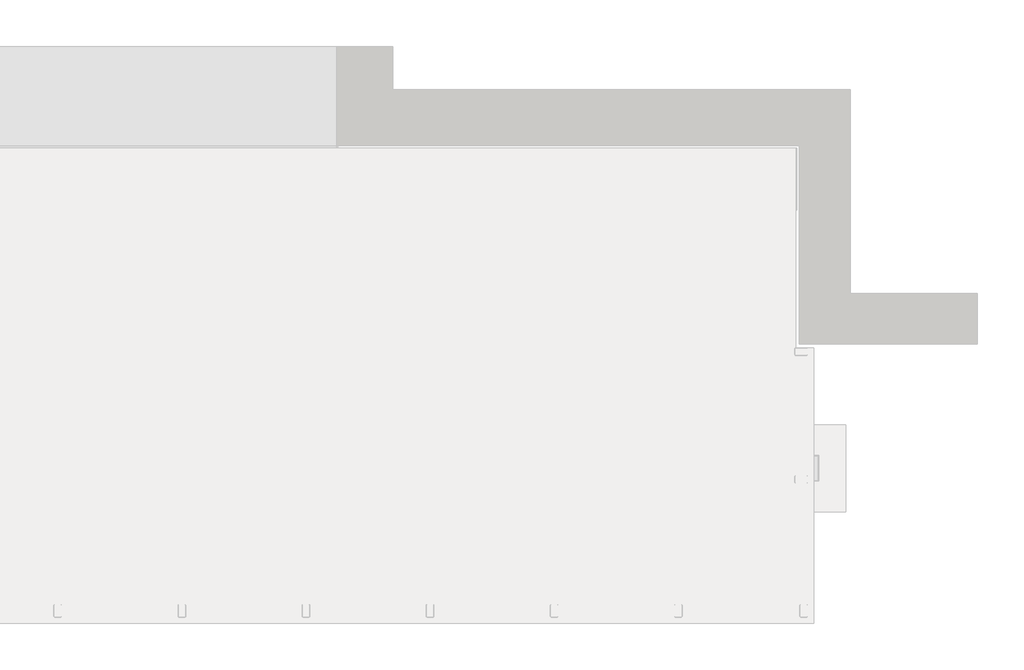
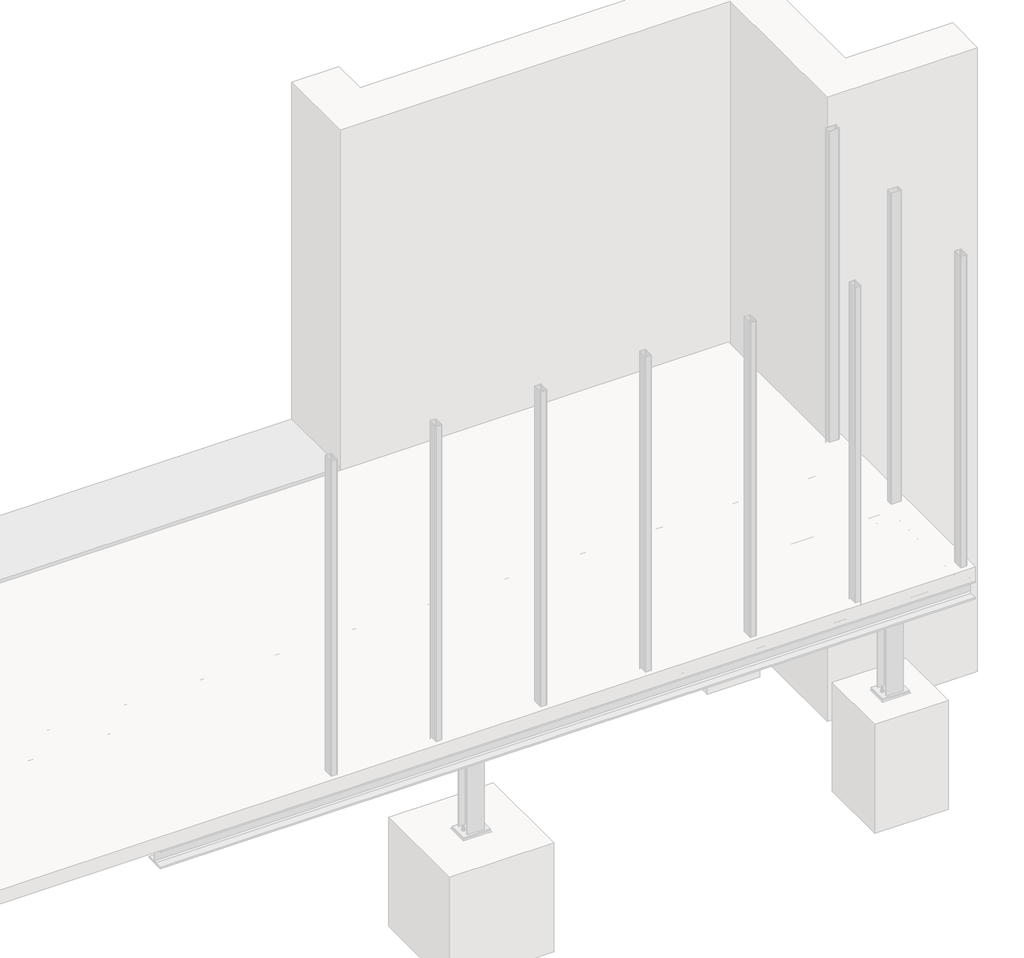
# One storey, part 33 of 36: 17 assemblies.
"""IFC4 building model written with IfcOpenShell, lengths in millimetres."""

from ifc_helpers import new_model, si_unit, point, frame, frame_2d, origin, place, context, project, spatial, polyline, circle_curve, trimmed, segment, composite_curve, outline, extrude, element, save

model = new_model("IFC4")

# Units and contexts
model_context = context("Model", 3, world=origin())
ifc_project = project(units=[si_unit("LENGTHUNIT", "METRE", prefix="MILLI")], contexts=[model_context])

# Site, building, storey
site = spatial("IfcSite", under=ifc_project)
building = spatial("IfcBuilding", under=site)
storey = spatial("IfcBuildingStorey", under=building, Name="Základy", Elevation=-1200.0)

# Assemblies
placement = place(None, origin())
element("IfcElementAssembly", 1, at=placement, inside=storey, context=model_context, shape_type="SweptSolid", body=[
    extrude(outline(composite_curve([segment(polyline([(1170.0, -160.0), (1350.0, -160.0), (1350.0, -174.0), (1279.25, -174.0)]), True, "CONTINUOUS"), segment(trimmed(circle_curve(frame_2d((1279.25, -189.0)), 15.0), [point((1279.25, -174.0))], [point((1264.25, -189.0))], True, "CARTESIAN"), True, "CONTINUOUS"), segment(polyline([(1264.25, -189.0), (1264.25, -311.0)]), True, "CONTINUOUS"), segment(trimmed(circle_curve(frame_2d((1279.25, -311.0)), 15.0), [point((1264.25, -311.0))], [point((1279.25, -326.0))], True, "CARTESIAN"), True, "CONTINUOUS"), segment(polyline([(1279.25, -326.0), (1350.0, -326.0), (1350.0, -340.0), (1170.0, -340.0), (1170.0, -326.0), (1240.75, -326.0)]), True, "CONTINUOUS"), segment(trimmed(circle_curve(frame_2d((1240.75, -311.0)), 15.0), [point((1240.75, -326.0))], [point((1255.75, -311.0))], True, "CARTESIAN"), True, "CONTINUOUS"), segment(polyline([(1255.75, -311.0), (1255.75, -189.0)]), True, "CONTINUOUS"), segment(trimmed(circle_curve(frame_2d((1240.75, -189.0)), 15.0), [point((1255.75, -189.0))], [point((1240.75, -174.0))], True, "CARTESIAN"), True, "CONTINUOUS"), segment(polyline([(1240.75, -174.0), (1170.0, -174.0), (1170.0, -160.0)]), True, "CONTINUOUS")], self_intersect=False)), frame((12160.0, 0.0, 0.0), z_axis=(1.0, 0.0, 0.0), x_axis=(0.0, 1.0, 0.0)), (0.0, 0.0, 1.0), 3780.0),
    extrude(outline(polyline([(12150.0, 1170.0), (12150.0, 1350.0), (12160.0, 1350.0), (12160.0, 1170.0), (12150.0, 1170.0)])), frame((0.0, 0.0, -326.0), z_axis=(0.0, 0.0, 1.0), x_axis=(1.0, 0.0, 0.0)), (0.0, 0.0, 1.0), 152.0),
    extrude(outline(polyline([(15940.0, 1170.0), (15940.0, 1350.0), (15950.0, 1350.0), (15950.0, 1170.0), (15940.0, 1170.0)])), frame((0.0, 0.0, -326.0), z_axis=(0.0, 0.0, 1.0), x_axis=(1.0, 0.0, 0.0)), (0.0, 0.0, 1.0), 152.0),
    extrude(outline(composite_curve([segment(polyline([(1170.0, -174.0), (1235.75, -174.0)]), True, "CONTINUOUS"), segment(trimmed(circle_curve(frame_2d((1255.75, -174.0)), 20.0), [point((1235.75, -174.0))], [point((1255.75, -194.0))], True, "CARTESIAN"), True, "CONTINUOUS"), segment(polyline([(1255.75, -194.0), (1255.75, -306.0)]), True, "CONTINUOUS"), segment(trimmed(circle_curve(frame_2d((1255.75, -326.0)), 20.0), [point((1255.75, -306.0))], [point((1235.75, -326.0))], True, "CARTESIAN"), True, "CONTINUOUS"), segment(polyline([(1235.75, -326.0), (1170.0, -326.0), (1170.0, -174.0)]), True, "CONTINUOUS")], self_intersect=False)), frame((14046.0, 0.0, 0.0), z_axis=(1.0, 0.0, 0.0), x_axis=(0.0, 1.0, 0.0)), (0.0, 0.0, 1.0), 8.0),
    extrude(outline(polyline([(13985.0, 1170.0), (14115.0, 1170.0), (14115.0, 1160.0), (13985.0, 1160.0), (13985.0, 1170.0)])), frame((0.0, 0.0, -332.0), z_axis=(0.0, 0.0, 1.0), x_axis=(1.0, 0.0, 0.0)), (0.0, 0.0, 1.0), 164.0),
    extrude(outline(composite_curve([segment(polyline([(1350.0, -174.0), (1350.0, -326.0), (1284.25, -326.0)]), True, "CONTINUOUS"), segment(trimmed(circle_curve(frame_2d((1264.25, -326.0)), 20.0), [point((1284.25, -326.0))], [point((1264.25, -306.0))], True, "CARTESIAN"), True, "CONTINUOUS"), segment(polyline([(1264.25, -306.0), (1264.25, -194.0)]), True, "CONTINUOUS"), segment(trimmed(circle_curve(frame_2d((1264.25, -174.0)), 20.0), [point((1264.25, -194.0))], [point((1284.25, -174.0))], True, "CARTESIAN"), True, "CONTINUOUS"), segment(polyline([(1284.25, -174.0), (1350.0, -174.0)]), True, "CONTINUOUS")], self_intersect=False)), frame((14046.0, 0.0, 0.0), z_axis=(1.0, 0.0, 0.0), x_axis=(0.0, 1.0, 0.0)), (0.0, 0.0, 1.0), 8.0),
    extrude(outline(polyline([(13985.0, 1360.0), (14115.0, 1360.0), (14115.0, 1350.0), (13985.0, 1350.0), (13985.0, 1360.0)])), frame((0.0, 0.0, -332.0), z_axis=(0.0, 0.0, 1.0), x_axis=(1.0, 0.0, 0.0)), (0.0, 0.0, 1.0), 164.0),
    extrude(outline(composite_curve([segment(trimmed(circle_curve(frame_2d((-290.0, 14015.0)), 9.0), [point((-290.0, 14024.0))], [point((-290.0, 14006.0))], False, "CARTESIAN"), True, "CONTINUOUS"), segment(trimmed(circle_curve(frame_2d((-290.0, 14015.0)), 9.0), [point((-290.0, 14006.0))], [point((-290.0, 14024.0))], False, "CARTESIAN"), True, "CONTINUOUS")], self_intersect=False)), frame((0.0, 1159.9, 0.0), z_axis=(0.0, 1.0, 0.0), x_axis=(0.0, 0.0, 1.0)), (0.0, 0.0, 1.0), 10.0),
    extrude(outline(polyline([(-290.0, 14028.8564065), (-278.0, 14021.9282032), (-278.0, 14008.0717968), (-290.0, 14001.1435935), (-302.0, 14008.0717968), (-302.0, 14021.9282032), (-290.0, 14028.8564065)])), frame((0.0, 1173.0, 0.0), z_axis=(0.0, 1.0, 0.0), x_axis=(0.0, 0.0, 1.0)), (0.0, 0.0, 1.0), 10.0),
    extrude(outline(composite_curve([segment(trimmed(circle_curve(frame_2d((-290.0, 14015.0)), 8.0), [point((-290.0, 14023.0))], [point((-290.0, 14007.0))], False, "CARTESIAN"), True, "CONTINUOUS"), segment(trimmed(circle_curve(frame_2d((-290.0, 14015.0)), 8.0), [point((-290.0, 14007.0))], [point((-290.0, 14023.0))], False, "CARTESIAN"), True, "CONTINUOUS")], self_intersect=False)), frame((0.0, 1123.0, 0.0), z_axis=(0.0, 1.0, 0.0), x_axis=(0.0, 0.0, 1.0)), (0.0, 0.0, 1.0), 50.0),
    extrude(outline(composite_curve([segment(trimmed(circle_curve(frame_2d((-290.0, 14015.0)), 15.0), [point((-290.0, 14030.0))], [point((-290.0, 14000.0))], False, "CARTESIAN"), True, "CONTINUOUS"), segment(trimmed(circle_curve(frame_2d((-290.0, 14015.0)), 15.0), [point((-290.0, 14000.0))], [point((-290.0, 14030.0))], False, "CARTESIAN"), True, "CONTINUOUS")], self_intersect=False)), frame((0.0, 1170.0, 0.0), z_axis=(0.0, 1.0, 0.0), x_axis=(0.0, 0.0, 1.0)), (0.0, 0.0, 1.0), 3.0),
    extrude(outline(composite_curve([segment(trimmed(circle_curve(frame_2d((-290.0, 14015.0)), 15.0), [point((-290.0, 14030.0))], [point((-290.0, 14000.0))], False, "CARTESIAN"), True, "CONTINUOUS"), segment(trimmed(circle_curve(frame_2d((-290.0, 14015.0)), 15.0), [point((-290.0, 14000.0))], [point((-290.0, 14030.0))], False, "CARTESIAN"), True, "CONTINUOUS")], self_intersect=False)), frame((0.0, 1147.0, 0.0), z_axis=(0.0, 1.0, 0.0), x_axis=(0.0, 0.0, 1.0)), (0.0, 0.0, 1.0), 3.0),
    extrude(outline(polyline([(-290.0, 14030.4441197), (-276.625, 14022.7220599), (-276.625, 14007.2779401), (-290.0, 13999.5558803), (-303.375, 14007.2779401), (-303.375, 14022.7220599), (-290.0, 14030.4441197)])), frame((0.0, 1134.0, 0.0), z_axis=(0.0, 1.0, 0.0), x_axis=(0.0, 0.0, 1.0)), (0.0, 0.0, 1.0), 13.0),
    extrude(outline(composite_curve([segment(trimmed(circle_curve(frame_2d((-290.0, 14015.0)), 9.0), [point((-290.0, 14024.0))], [point((-290.0, 14006.0))], False, "CARTESIAN"), True, "CONTINUOUS"), segment(trimmed(circle_curve(frame_2d((-290.0, 14015.0)), 9.0), [point((-290.0, 14006.0))], [point((-290.0, 14024.0))], False, "CARTESIAN"), True, "CONTINUOUS")], self_intersect=False)), frame((0.0, 1150.0, 0.0), z_axis=(0.0, 1.0, 0.0), x_axis=(0.0, 0.0, 1.0)), (0.0, 0.0, 1.0), 10.1),
    extrude(outline(composite_curve([segment(trimmed(circle_curve(frame_2d((-290.0, 14085.0)), 9.0), [point((-290.0, 14094.0))], [point((-290.0, 14076.0))], False, "CARTESIAN"), True, "CONTINUOUS"), segment(trimmed(circle_curve(frame_2d((-290.0, 14085.0)), 9.0), [point((-290.0, 14076.0))], [point((-290.0, 14094.0))], False, "CARTESIAN"), True, "CONTINUOUS")], self_intersect=False)), frame((0.0, 1159.9, 0.0), z_axis=(0.0, 1.0, 0.0), x_axis=(0.0, 0.0, 1.0)), (0.0, 0.0, 1.0), 10.0),
    extrude(outline(polyline([(-290.0, 14098.8564065), (-278.0, 14091.9282032), (-278.0, 14078.0717968), (-290.0, 14071.1435935), (-302.0, 14078.0717968), (-302.0, 14091.9282032), (-290.0, 14098.8564065)])), frame((0.0, 1173.0, 0.0), z_axis=(0.0, 1.0, 0.0), x_axis=(0.0, 0.0, 1.0)), (0.0, 0.0, 1.0), 10.0),
    extrude(outline(composite_curve([segment(trimmed(circle_curve(frame_2d((-290.0, 14085.0)), 8.0), [point((-290.0, 14093.0))], [point((-290.0, 14077.0))], False, "CARTESIAN"), True, "CONTINUOUS"), segment(trimmed(circle_curve(frame_2d((-290.0, 14085.0)), 8.0), [point((-290.0, 14077.0))], [point((-290.0, 14093.0))], False, "CARTESIAN"), True, "CONTINUOUS")], self_intersect=False)), frame((0.0, 1123.0, 0.0), z_axis=(0.0, 1.0, 0.0), x_axis=(0.0, 0.0, 1.0)), (0.0, 0.0, 1.0), 50.0),
    extrude(outline(composite_curve([segment(trimmed(circle_curve(frame_2d((-290.0, 14085.0)), 15.0), [point((-290.0, 14100.0))], [point((-290.0, 14070.0))], False, "CARTESIAN"), True, "CONTINUOUS"), segment(trimmed(circle_curve(frame_2d((-290.0, 14085.0)), 15.0), [point((-290.0, 14070.0))], [point((-290.0, 14100.0))], False, "CARTESIAN"), True, "CONTINUOUS")], self_intersect=False)), frame((0.0, 1170.0, 0.0), z_axis=(0.0, 1.0, 0.0), x_axis=(0.0, 0.0, 1.0)), (0.0, 0.0, 1.0), 3.0),
    extrude(outline(composite_curve([segment(trimmed(circle_curve(frame_2d((-290.0, 14085.0)), 15.0), [point((-290.0, 14100.0))], [point((-290.0, 14070.0))], False, "CARTESIAN"), True, "CONTINUOUS"), segment(trimmed(circle_curve(frame_2d((-290.0, 14085.0)), 15.0), [point((-290.0, 14070.0))], [point((-290.0, 14100.0))], False, "CARTESIAN"), True, "CONTINUOUS")], self_intersect=False)), frame((0.0, 1147.0, 0.0), z_axis=(0.0, 1.0, 0.0), x_axis=(0.0, 0.0, 1.0)), (0.0, 0.0, 1.0), 3.0),
    extrude(outline(polyline([(-290.0, 14100.4441197), (-276.625, 14092.7220599), (-276.625, 14077.2779401), (-290.0, 14069.5558803), (-303.375, 14077.2779401), (-303.375, 14092.7220599), (-290.0, 14100.4441197)])), frame((0.0, 1134.0, 0.0), z_axis=(0.0, 1.0, 0.0), x_axis=(0.0, 0.0, 1.0)), (0.0, 0.0, 1.0), 13.0),
    extrude(outline(composite_curve([segment(trimmed(circle_curve(frame_2d((-290.0, 14085.0)), 9.0), [point((-290.0, 14094.0))], [point((-290.0, 14076.0))], False, "CARTESIAN"), True, "CONTINUOUS"), segment(trimmed(circle_curve(frame_2d((-290.0, 14085.0)), 9.0), [point((-290.0, 14076.0))], [point((-290.0, 14094.0))], False, "CARTESIAN"), True, "CONTINUOUS")], self_intersect=False)), frame((0.0, 1150.0, 0.0), z_axis=(0.0, 1.0, 0.0), x_axis=(0.0, 0.0, 1.0)), (0.0, 0.0, 1.0), 10.1),
    extrude(outline(composite_curve([segment(trimmed(circle_curve(frame_2d((-210.0, 14015.0)), 9.0), [point((-210.0, 14024.0))], [point((-210.0, 14006.0))], False, "CARTESIAN"), True, "CONTINUOUS"), segment(trimmed(circle_curve(frame_2d((-210.0, 14015.0)), 9.0), [point((-210.0, 14006.0))], [point((-210.0, 14024.0))], False, "CARTESIAN"), True, "CONTINUOUS")], self_intersect=False)), frame((0.0, 1159.9, 0.0), z_axis=(0.0, 1.0, 0.0), x_axis=(0.0, 0.0, 1.0)), (0.0, 0.0, 1.0), 10.0),
    extrude(outline(polyline([(-210.0, 14028.8564065), (-198.0, 14021.9282032), (-198.0, 14008.0717968), (-210.0, 14001.1435935), (-222.0, 14008.0717968), (-222.0, 14021.9282032), (-210.0, 14028.8564065)])), frame((0.0, 1173.0, 0.0), z_axis=(0.0, 1.0, 0.0), x_axis=(0.0, 0.0, 1.0)), (0.0, 0.0, 1.0), 10.0),
    extrude(outline(composite_curve([segment(trimmed(circle_curve(frame_2d((-210.0, 14015.0)), 8.0), [point((-210.0, 14023.0))], [point((-210.0, 14007.0))], False, "CARTESIAN"), True, "CONTINUOUS"), segment(trimmed(circle_curve(frame_2d((-210.0, 14015.0)), 8.0), [point((-210.0, 14007.0))], [point((-210.0, 14023.0))], False, "CARTESIAN"), True, "CONTINUOUS")], self_intersect=False)), frame((0.0, 1123.0, 0.0), z_axis=(0.0, 1.0, 0.0), x_axis=(0.0, 0.0, 1.0)), (0.0, 0.0, 1.0), 50.0),
    extrude(outline(composite_curve([segment(trimmed(circle_curve(frame_2d((-210.0, 14015.0)), 15.0), [point((-210.0, 14030.0))], [point((-210.0, 14000.0))], False, "CARTESIAN"), True, "CONTINUOUS"), segment(trimmed(circle_curve(frame_2d((-210.0, 14015.0)), 15.0), [point((-210.0, 14000.0))], [point((-210.0, 14030.0))], False, "CARTESIAN"), True, "CONTINUOUS")], self_intersect=False)), frame((0.0, 1170.0, 0.0), z_axis=(0.0, 1.0, 0.0), x_axis=(0.0, 0.0, 1.0)), (0.0, 0.0, 1.0), 3.0),
    extrude(outline(composite_curve([segment(trimmed(circle_curve(frame_2d((-210.0, 14015.0)), 15.0), [point((-210.0, 14030.0))], [point((-210.0, 14000.0))], False, "CARTESIAN"), True, "CONTINUOUS"), segment(trimmed(circle_curve(frame_2d((-210.0, 14015.0)), 15.0), [point((-210.0, 14000.0))], [point((-210.0, 14030.0))], False, "CARTESIAN"), True, "CONTINUOUS")], self_intersect=False)), frame((0.0, 1147.0, 0.0), z_axis=(0.0, 1.0, 0.0), x_axis=(0.0, 0.0, 1.0)), (0.0, 0.0, 1.0), 3.0),
    extrude(outline(polyline([(-210.0, 14030.4441197), (-196.625, 14022.7220599), (-196.625, 14007.2779401), (-210.0, 13999.5558803), (-223.375, 14007.2779401), (-223.375, 14022.7220599), (-210.0, 14030.4441197)])), frame((0.0, 1134.0, 0.0), z_axis=(0.0, 1.0, 0.0), x_axis=(0.0, 0.0, 1.0)), (0.0, 0.0, 1.0), 13.0),
    extrude(outline(composite_curve([segment(trimmed(circle_curve(frame_2d((-210.0, 14015.0)), 9.0), [point((-210.0, 14024.0))], [point((-210.0, 14006.0))], False, "CARTESIAN"), True, "CONTINUOUS"), segment(trimmed(circle_curve(frame_2d((-210.0, 14015.0)), 9.0), [point((-210.0, 14006.0))], [point((-210.0, 14024.0))], False, "CARTESIAN"), True, "CONTINUOUS")], self_intersect=False)), frame((0.0, 1150.0, 0.0), z_axis=(0.0, 1.0, 0.0), x_axis=(0.0, 0.0, 1.0)), (0.0, 0.0, 1.0), 10.1),
    extrude(outline(composite_curve([segment(trimmed(circle_curve(frame_2d((-210.0, 14085.0)), 9.0), [point((-210.0, 14094.0))], [point((-210.0, 14076.0))], False, "CARTESIAN"), True, "CONTINUOUS"), segment(trimmed(circle_curve(frame_2d((-210.0, 14085.0)), 9.0), [point((-210.0, 14076.0))], [point((-210.0, 14094.0))], False, "CARTESIAN"), True, "CONTINUOUS")], self_intersect=False)), frame((0.0, 1159.9, 0.0), z_axis=(0.0, 1.0, 0.0), x_axis=(0.0, 0.0, 1.0)), (0.0, 0.0, 1.0), 10.0),
    extrude(outline(polyline([(-210.0, 14098.8564065), (-198.0, 14091.9282032), (-198.0, 14078.0717968), (-210.0, 14071.1435935), (-222.0, 14078.0717968), (-222.0, 14091.9282032), (-210.0, 14098.8564065)])), frame((0.0, 1173.0, 0.0), z_axis=(0.0, 1.0, 0.0), x_axis=(0.0, 0.0, 1.0)), (0.0, 0.0, 1.0), 10.0),
    extrude(outline(composite_curve([segment(trimmed(circle_curve(frame_2d((-210.0, 14085.0)), 8.0), [point((-210.0, 14093.0))], [point((-210.0, 14077.0))], False, "CARTESIAN"), True, "CONTINUOUS"), segment(trimmed(circle_curve(frame_2d((-210.0, 14085.0)), 8.0), [point((-210.0, 14077.0))], [point((-210.0, 14093.0))], False, "CARTESIAN"), True, "CONTINUOUS")], self_intersect=False)), frame((0.0, 1123.0, 0.0), z_axis=(0.0, 1.0, 0.0), x_axis=(0.0, 0.0, 1.0)), (0.0, 0.0, 1.0), 50.0),
    extrude(outline(composite_curve([segment(trimmed(circle_curve(frame_2d((-210.0, 14085.0)), 15.0), [point((-210.0, 14100.0))], [point((-210.0, 14070.0))], False, "CARTESIAN"), True, "CONTINUOUS"), segment(trimmed(circle_curve(frame_2d((-210.0, 14085.0)), 15.0), [point((-210.0, 14070.0))], [point((-210.0, 14100.0))], False, "CARTESIAN"), True, "CONTINUOUS")], self_intersect=False)), frame((0.0, 1170.0, 0.0), z_axis=(0.0, 1.0, 0.0), x_axis=(0.0, 0.0, 1.0)), (0.0, 0.0, 1.0), 3.0),
    extrude(outline(composite_curve([segment(trimmed(circle_curve(frame_2d((-210.0, 14085.0)), 15.0), [point((-210.0, 14100.0))], [point((-210.0, 14070.0))], False, "CARTESIAN"), True, "CONTINUOUS"), segment(trimmed(circle_curve(frame_2d((-210.0, 14085.0)), 15.0), [point((-210.0, 14070.0))], [point((-210.0, 14100.0))], False, "CARTESIAN"), True, "CONTINUOUS")], self_intersect=False)), frame((0.0, 1147.0, 0.0), z_axis=(0.0, 1.0, 0.0), x_axis=(0.0, 0.0, 1.0)), (0.0, 0.0, 1.0), 3.0),
    extrude(outline(polyline([(-210.0, 14100.4441197), (-196.625, 14092.7220599), (-196.625, 14077.2779401), (-210.0, 14069.5558803), (-223.375, 14077.2779401), (-223.375, 14092.7220599), (-210.0, 14100.4441197)])), frame((0.0, 1134.0, 0.0), z_axis=(0.0, 1.0, 0.0), x_axis=(0.0, 0.0, 1.0)), (0.0, 0.0, 1.0), 13.0),
    extrude(outline(composite_curve([segment(trimmed(circle_curve(frame_2d((-210.0, 14085.0)), 9.0), [point((-210.0, 14094.0))], [point((-210.0, 14076.0))], False, "CARTESIAN"), True, "CONTINUOUS"), segment(trimmed(circle_curve(frame_2d((-210.0, 14085.0)), 9.0), [point((-210.0, 14076.0))], [point((-210.0, 14094.0))], False, "CARTESIAN"), True, "CONTINUOUS")], self_intersect=False)), frame((0.0, 1150.0, 0.0), z_axis=(0.0, 1.0, 0.0), x_axis=(0.0, 0.0, 1.0)), (0.0, 0.0, 1.0), 10.1),
    extrude(outline(composite_curve([segment(trimmed(circle_curve(frame_2d((-290.0, 14015.0)), 9.0), [point((-290.0, 14024.0))], [point((-290.0, 14006.0))], False, "CARTESIAN"), True, "CONTINUOUS"), segment(trimmed(circle_curve(frame_2d((-290.0, 14015.0)), 9.0), [point((-290.0, 14006.0))], [point((-290.0, 14024.0))], False, "CARTESIAN"), True, "CONTINUOUS")], self_intersect=False)), frame((0.0, 1350.1, 0.0), z_axis=(0.0, 1.0, 0.0), x_axis=(0.0, 0.0, 1.0)), (0.0, 0.0, 1.0), 10.0),
    extrude(outline(polyline([(-290.0, 14028.8564065), (-278.0, 14021.9282032), (-278.0, 14008.0717968), (-290.0, 14001.1435935), (-302.0, 14008.0717968), (-302.0, 14021.9282032), (-290.0, 14028.8564065)])), frame((0.0, 1337.0, 0.0), z_axis=(0.0, 1.0, 0.0), x_axis=(0.0, 0.0, 1.0)), (0.0, 0.0, 1.0), 10.0),
    extrude(outline(composite_curve([segment(trimmed(circle_curve(frame_2d((-290.0, 14015.0)), 8.0), [point((-290.0, 14023.0))], [point((-290.0, 14007.0))], False, "CARTESIAN"), True, "CONTINUOUS"), segment(trimmed(circle_curve(frame_2d((-290.0, 14015.0)), 8.0), [point((-290.0, 14007.0))], [point((-290.0, 14023.0))], False, "CARTESIAN"), True, "CONTINUOUS")], self_intersect=False)), frame((0.0, 1347.0, 0.0), z_axis=(0.0, 1.0, 0.0), x_axis=(0.0, 0.0, 1.0)), (0.0, 0.0, 1.0), 50.0),
    extrude(outline(composite_curve([segment(trimmed(circle_curve(frame_2d((-290.0, 14015.0)), 15.0), [point((-290.0, 14030.0))], [point((-290.0, 14000.0))], False, "CARTESIAN"), True, "CONTINUOUS"), segment(trimmed(circle_curve(frame_2d((-290.0, 14015.0)), 15.0), [point((-290.0, 14000.0))], [point((-290.0, 14030.0))], False, "CARTESIAN"), True, "CONTINUOUS")], self_intersect=False)), frame((0.0, 1347.0, 0.0), z_axis=(0.0, 1.0, 0.0), x_axis=(0.0, 0.0, 1.0)), (0.0, 0.0, 1.0), 3.0),
    extrude(outline(composite_curve([segment(trimmed(circle_curve(frame_2d((-290.0, 14015.0)), 15.0), [point((-290.0, 14030.0))], [point((-290.0, 14000.0))], False, "CARTESIAN"), True, "CONTINUOUS"), segment(trimmed(circle_curve(frame_2d((-290.0, 14015.0)), 15.0), [point((-290.0, 14000.0))], [point((-290.0, 14030.0))], False, "CARTESIAN"), True, "CONTINUOUS")], self_intersect=False)), frame((0.0, 1370.0, 0.0), z_axis=(0.0, 1.0, 0.0), x_axis=(0.0, 0.0, 1.0)), (0.0, 0.0, 1.0), 3.0),
    extrude(outline(polyline([(-290.0, 14030.4441197), (-276.625, 14022.7220599), (-276.625, 14007.2779401), (-290.0, 13999.5558803), (-303.375, 14007.2779401), (-303.375, 14022.7220599), (-290.0, 14030.4441197)])), frame((0.0, 1373.0, 0.0), z_axis=(0.0, 1.0, 0.0), x_axis=(0.0, 0.0, 1.0)), (0.0, 0.0, 1.0), 13.0),
    extrude(outline(composite_curve([segment(trimmed(circle_curve(frame_2d((-290.0, 14015.0)), 9.0), [point((-290.0, 14024.0))], [point((-290.0, 14006.0))], False, "CARTESIAN"), True, "CONTINUOUS"), segment(trimmed(circle_curve(frame_2d((-290.0, 14015.0)), 9.0), [point((-290.0, 14006.0))], [point((-290.0, 14024.0))], False, "CARTESIAN"), True, "CONTINUOUS")], self_intersect=False)), frame((0.0, 1359.9, 0.0), z_axis=(0.0, 1.0, 0.0), x_axis=(0.0, 0.0, 1.0)), (0.0, 0.0, 1.0), 10.1),
    extrude(outline(composite_curve([segment(trimmed(circle_curve(frame_2d((-290.0, 14085.0)), 9.0), [point((-290.0, 14094.0))], [point((-290.0, 14076.0))], False, "CARTESIAN"), True, "CONTINUOUS"), segment(trimmed(circle_curve(frame_2d((-290.0, 14085.0)), 9.0), [point((-290.0, 14076.0))], [point((-290.0, 14094.0))], False, "CARTESIAN"), True, "CONTINUOUS")], self_intersect=False)), frame((0.0, 1350.1, 0.0), z_axis=(0.0, 1.0, 0.0), x_axis=(0.0, 0.0, 1.0)), (0.0, 0.0, 1.0), 10.0),
    extrude(outline(polyline([(-290.0, 14098.8564065), (-278.0, 14091.9282032), (-278.0, 14078.0717968), (-290.0, 14071.1435935), (-302.0, 14078.0717968), (-302.0, 14091.9282032), (-290.0, 14098.8564065)])), frame((0.0, 1337.0, 0.0), z_axis=(0.0, 1.0, 0.0), x_axis=(0.0, 0.0, 1.0)), (0.0, 0.0, 1.0), 10.0),
    extrude(outline(composite_curve([segment(trimmed(circle_curve(frame_2d((-290.0, 14085.0)), 8.0), [point((-290.0, 14093.0))], [point((-290.0, 14077.0))], False, "CARTESIAN"), True, "CONTINUOUS"), segment(trimmed(circle_curve(frame_2d((-290.0, 14085.0)), 8.0), [point((-290.0, 14077.0))], [point((-290.0, 14093.0))], False, "CARTESIAN"), True, "CONTINUOUS")], self_intersect=False)), frame((0.0, 1347.0, 0.0), z_axis=(0.0, 1.0, 0.0), x_axis=(0.0, 0.0, 1.0)), (0.0, 0.0, 1.0), 50.0),
    extrude(outline(composite_curve([segment(trimmed(circle_curve(frame_2d((-290.0, 14085.0)), 15.0), [point((-290.0, 14100.0))], [point((-290.0, 14070.0))], False, "CARTESIAN"), True, "CONTINUOUS"), segment(trimmed(circle_curve(frame_2d((-290.0, 14085.0)), 15.0), [point((-290.0, 14070.0))], [point((-290.0, 14100.0))], False, "CARTESIAN"), True, "CONTINUOUS")], self_intersect=False)), frame((0.0, 1347.0, 0.0), z_axis=(0.0, 1.0, 0.0), x_axis=(0.0, 0.0, 1.0)), (0.0, 0.0, 1.0), 3.0),
    extrude(outline(composite_curve([segment(trimmed(circle_curve(frame_2d((-290.0, 14085.0)), 15.0), [point((-290.0, 14100.0))], [point((-290.0, 14070.0))], False, "CARTESIAN"), True, "CONTINUOUS"), segment(trimmed(circle_curve(frame_2d((-290.0, 14085.0)), 15.0), [point((-290.0, 14070.0))], [point((-290.0, 14100.0))], False, "CARTESIAN"), True, "CONTINUOUS")], self_intersect=False)), frame((0.0, 1370.0, 0.0), z_axis=(0.0, 1.0, 0.0), x_axis=(0.0, 0.0, 1.0)), (0.0, 0.0, 1.0), 3.0),
    extrude(outline(polyline([(-290.0, 14100.4441197), (-276.625, 14092.7220599), (-276.625, 14077.2779401), (-290.0, 14069.5558803), (-303.375, 14077.2779401), (-303.375, 14092.7220599), (-290.0, 14100.4441197)])), frame((0.0, 1373.0, 0.0), z_axis=(0.0, 1.0, 0.0), x_axis=(0.0, 0.0, 1.0)), (0.0, 0.0, 1.0), 13.0),
    extrude(outline(composite_curve([segment(trimmed(circle_curve(frame_2d((-290.0, 14085.0)), 9.0), [point((-290.0, 14094.0))], [point((-290.0, 14076.0))], False, "CARTESIAN"), True, "CONTINUOUS"), segment(trimmed(circle_curve(frame_2d((-290.0, 14085.0)), 9.0), [point((-290.0, 14076.0))], [point((-290.0, 14094.0))], False, "CARTESIAN"), True, "CONTINUOUS")], self_intersect=False)), frame((0.0, 1359.9, 0.0), z_axis=(0.0, 1.0, 0.0), x_axis=(0.0, 0.0, 1.0)), (0.0, 0.0, 1.0), 10.1),
    extrude(outline(composite_curve([segment(trimmed(circle_curve(frame_2d((-210.0, 14015.0)), 9.0), [point((-210.0, 14024.0))], [point((-210.0, 14006.0))], False, "CARTESIAN"), True, "CONTINUOUS"), segment(trimmed(circle_curve(frame_2d((-210.0, 14015.0)), 9.0), [point((-210.0, 14006.0))], [point((-210.0, 14024.0))], False, "CARTESIAN"), True, "CONTINUOUS")], self_intersect=False)), frame((0.0, 1350.1, 0.0), z_axis=(0.0, 1.0, 0.0), x_axis=(0.0, 0.0, 1.0)), (0.0, 0.0, 1.0), 10.0),
    extrude(outline(polyline([(-210.0, 14028.8564065), (-198.0, 14021.9282032), (-198.0, 14008.0717968), (-210.0, 14001.1435935), (-222.0, 14008.0717968), (-222.0, 14021.9282032), (-210.0, 14028.8564065)])), frame((0.0, 1337.0, 0.0), z_axis=(0.0, 1.0, 0.0), x_axis=(0.0, 0.0, 1.0)), (0.0, 0.0, 1.0), 10.0),
    extrude(outline(composite_curve([segment(trimmed(circle_curve(frame_2d((-210.0, 14015.0)), 8.0), [point((-210.0, 14023.0))], [point((-210.0, 14007.0))], False, "CARTESIAN"), True, "CONTINUOUS"), segment(trimmed(circle_curve(frame_2d((-210.0, 14015.0)), 8.0), [point((-210.0, 14007.0))], [point((-210.0, 14023.0))], False, "CARTESIAN"), True, "CONTINUOUS")], self_intersect=False)), frame((0.0, 1347.0, 0.0), z_axis=(0.0, 1.0, 0.0), x_axis=(0.0, 0.0, 1.0)), (0.0, 0.0, 1.0), 50.0),
    extrude(outline(composite_curve([segment(trimmed(circle_curve(frame_2d((-210.0, 14015.0)), 15.0), [point((-210.0, 14030.0))], [point((-210.0, 14000.0))], False, "CARTESIAN"), True, "CONTINUOUS"), segment(trimmed(circle_curve(frame_2d((-210.0, 14015.0)), 15.0), [point((-210.0, 14000.0))], [point((-210.0, 14030.0))], False, "CARTESIAN"), True, "CONTINUOUS")], self_intersect=False)), frame((0.0, 1347.0, 0.0), z_axis=(0.0, 1.0, 0.0), x_axis=(0.0, 0.0, 1.0)), (0.0, 0.0, 1.0), 3.0),
    extrude(outline(composite_curve([segment(trimmed(circle_curve(frame_2d((-210.0, 14015.0)), 15.0), [point((-210.0, 14030.0))], [point((-210.0, 14000.0))], False, "CARTESIAN"), True, "CONTINUOUS"), segment(trimmed(circle_curve(frame_2d((-210.0, 14015.0)), 15.0), [point((-210.0, 14000.0))], [point((-210.0, 14030.0))], False, "CARTESIAN"), True, "CONTINUOUS")], self_intersect=False)), frame((0.0, 1370.0, 0.0), z_axis=(0.0, 1.0, 0.0), x_axis=(0.0, 0.0, 1.0)), (0.0, 0.0, 1.0), 3.0),
    extrude(outline(polyline([(-210.0, 14030.4441197), (-196.625, 14022.7220599), (-196.625, 14007.2779401), (-210.0, 13999.5558803), (-223.375, 14007.2779401), (-223.375, 14022.7220599), (-210.0, 14030.4441197)])), frame((0.0, 1373.0, 0.0), z_axis=(0.0, 1.0, 0.0), x_axis=(0.0, 0.0, 1.0)), (0.0, 0.0, 1.0), 13.0),
    extrude(outline(composite_curve([segment(trimmed(circle_curve(frame_2d((-210.0, 14015.0)), 9.0), [point((-210.0, 14024.0))], [point((-210.0, 14006.0))], False, "CARTESIAN"), True, "CONTINUOUS"), segment(trimmed(circle_curve(frame_2d((-210.0, 14015.0)), 9.0), [point((-210.0, 14006.0))], [point((-210.0, 14024.0))], False, "CARTESIAN"), True, "CONTINUOUS")], self_intersect=False)), frame((0.0, 1359.9, 0.0), z_axis=(0.0, 1.0, 0.0), x_axis=(0.0, 0.0, 1.0)), (0.0, 0.0, 1.0), 10.1),
    extrude(outline(composite_curve([segment(trimmed(circle_curve(frame_2d((-210.0, 14085.0)), 9.0), [point((-210.0, 14094.0))], [point((-210.0, 14076.0))], False, "CARTESIAN"), True, "CONTINUOUS"), segment(trimmed(circle_curve(frame_2d((-210.0, 14085.0)), 9.0), [point((-210.0, 14076.0))], [point((-210.0, 14094.0))], False, "CARTESIAN"), True, "CONTINUOUS")], self_intersect=False)), frame((0.0, 1350.1, 0.0), z_axis=(0.0, 1.0, 0.0), x_axis=(0.0, 0.0, 1.0)), (0.0, 0.0, 1.0), 10.0),
    extrude(outline(polyline([(-210.0, 14098.8564065), (-198.0, 14091.9282032), (-198.0, 14078.0717968), (-210.0, 14071.1435935), (-222.0, 14078.0717968), (-222.0, 14091.9282032), (-210.0, 14098.8564065)])), frame((0.0, 1337.0, 0.0), z_axis=(0.0, 1.0, 0.0), x_axis=(0.0, 0.0, 1.0)), (0.0, 0.0, 1.0), 10.0),
    extrude(outline(composite_curve([segment(trimmed(circle_curve(frame_2d((-210.0, 14085.0)), 8.0), [point((-210.0, 14093.0))], [point((-210.0, 14077.0))], False, "CARTESIAN"), True, "CONTINUOUS"), segment(trimmed(circle_curve(frame_2d((-210.0, 14085.0)), 8.0), [point((-210.0, 14077.0))], [point((-210.0, 14093.0))], False, "CARTESIAN"), True, "CONTINUOUS")], self_intersect=False)), frame((0.0, 1347.0, 0.0), z_axis=(0.0, 1.0, 0.0), x_axis=(0.0, 0.0, 1.0)), (0.0, 0.0, 1.0), 50.0),
    extrude(outline(composite_curve([segment(trimmed(circle_curve(frame_2d((-210.0, 14085.0)), 15.0), [point((-210.0, 14100.0))], [point((-210.0, 14070.0))], False, "CARTESIAN"), True, "CONTINUOUS"), segment(trimmed(circle_curve(frame_2d((-210.0, 14085.0)), 15.0), [point((-210.0, 14070.0))], [point((-210.0, 14100.0))], False, "CARTESIAN"), True, "CONTINUOUS")], self_intersect=False)), frame((0.0, 1347.0, 0.0), z_axis=(0.0, 1.0, 0.0), x_axis=(0.0, 0.0, 1.0)), (0.0, 0.0, 1.0), 3.0),
    extrude(outline(composite_curve([segment(trimmed(circle_curve(frame_2d((-210.0, 14085.0)), 15.0), [point((-210.0, 14100.0))], [point((-210.0, 14070.0))], False, "CARTESIAN"), True, "CONTINUOUS"), segment(trimmed(circle_curve(frame_2d((-210.0, 14085.0)), 15.0), [point((-210.0, 14070.0))], [point((-210.0, 14100.0))], False, "CARTESIAN"), True, "CONTINUOUS")], self_intersect=False)), frame((0.0, 1370.0, 0.0), z_axis=(0.0, 1.0, 0.0), x_axis=(0.0, 0.0, 1.0)), (0.0, 0.0, 1.0), 3.0),
    extrude(outline(polyline([(-210.0, 14100.4441197), (-196.625, 14092.7220599), (-196.625, 14077.2779401), (-210.0, 14069.5558803), (-223.375, 14077.2779401), (-223.375, 14092.7220599), (-210.0, 14100.4441197)])), frame((0.0, 1373.0, 0.0), z_axis=(0.0, 1.0, 0.0), x_axis=(0.0, 0.0, 1.0)), (0.0, 0.0, 1.0), 13.0),
    extrude(outline(composite_curve([segment(trimmed(circle_curve(frame_2d((-210.0, 14085.0)), 9.0), [point((-210.0, 14094.0))], [point((-210.0, 14076.0))], False, "CARTESIAN"), True, "CONTINUOUS"), segment(trimmed(circle_curve(frame_2d((-210.0, 14085.0)), 9.0), [point((-210.0, 14076.0))], [point((-210.0, 14094.0))], False, "CARTESIAN"), True, "CONTINUOUS")], self_intersect=False)), frame((0.0, 1359.9, 0.0), z_axis=(0.0, 1.0, 0.0), x_axis=(0.0, 0.0, 1.0)), (0.0, 0.0, 1.0), 10.1),
])
element("IfcElementAssembly", 2, at=placement, inside=storey, context=model_context, shape_type="SweptSolid", body=[
    extrude(outline(composite_curve([segment(polyline([(-340.0, 14004.5), (-340.0, 14095.5), (-332.0, 14095.5), (-332.0, 14061.6500001)]), True, "CONTINUOUS"), segment(trimmed(circle_curve(frame_2d((-323.0, 14061.6500001)), 9.0), [point((-332.0, 14061.6500001))], [point((-323.0, 14052.6500001))], True, "CARTESIAN"), True, "CONTINUOUS"), segment(polyline([(-323.0, 14052.6500001), (-177.0, 14052.6500001)]), True, "CONTINUOUS"), segment(trimmed(circle_curve(frame_2d((-177.0, 14061.6500001)), 9.0), [point((-177.0, 14052.6500001))], [point((-168.0, 14061.6500001))], True, "CARTESIAN"), True, "CONTINUOUS"), segment(polyline([(-168.0, 14061.6500001), (-168.0, 14095.5), (-160.0, 14095.5), (-160.0, 14004.5), (-168.0, 14004.5), (-168.0, 14038.3499999)]), True, "CONTINUOUS"), segment(trimmed(circle_curve(frame_2d((-177.0, 14038.3499999)), 9.0), [point((-168.0, 14038.3499999))], [point((-177.0, 14047.3499999))], True, "CARTESIAN"), True, "CONTINUOUS"), segment(polyline([(-177.0, 14047.3499999), (-323.0, 14047.3499999)]), True, "CONTINUOUS"), segment(trimmed(circle_curve(frame_2d((-323.0, 14038.3499999)), 9.0), [point((-323.0, 14047.3499999))], [point((-332.0, 14038.3499999))], True, "CARTESIAN"), True, "CONTINUOUS"), segment(polyline([(-332.0, 14038.3499999), (-332.0, 14004.5), (-340.0, 14004.5)]), True, "CONTINUOUS")], self_intersect=False)), frame((0.0, 1370.0, 0.0), z_axis=(0.0, 1.0, 0.0), x_axis=(0.0, 0.0, 1.0)), (0.0, 0.0, 1.0), 2375.0),
    extrude(outline(polyline([(13985.0, 1370.0), (14115.0, 1370.0), (14115.0, 1360.0), (13985.0, 1360.0), (13985.0, 1370.0)])), frame((0.0, 0.0, -332.0), z_axis=(0.0, 0.0, 1.0), x_axis=(1.0, 0.0, 0.0)), (0.0, 0.0, 1.0), 164.0),
    extrude(outline(polyline([(13985.0, 3755.0), (14115.0, 3755.0), (14115.0, 3745.0), (13985.0, 3745.0), (13985.0, 3755.0)])), frame((0.0, 0.0, -332.0), z_axis=(0.0, 0.0, 1.0), x_axis=(1.0, 0.0, 0.0)), (0.0, 0.0, 1.0), 164.0),
])
element("IfcElementAssembly", 3, at=placement, inside=storey, context=model_context, shape_type="SweptSolid", body=[
    extrude(outline(polyline([(3802.7875602, -160.0099992), (3772.2875602, -111.5000008), (3637.6975638, -111.5000008), (3607.1975638, -160.0000008), (3552.7875754, -160.0000008), (3522.2875754, -111.5000008), (3387.6975715, -111.5000008), (3357.1975715, -160.0000008), (3302.7875697, -160.0000008), (3272.2875716, -111.5000008), (3137.6975638, -111.5000008), (3107.1975638, -160.0000008), (3052.7875602, -160.0000008), (3022.2875602, -111.5000008), (2887.6975638, -111.5000008), (2857.1975638, -160.0000008), (2802.7875602, -160.0000008), (2790.7375724, -139.4300002), (2803.1975638, -159.2500008), (2856.7875602, -159.2500008), (2887.2875602, -110.7500008), (3022.6975638, -110.7500008), (3053.1975638, -159.2500008), (3106.7875754, -159.2500008), (3137.2875754, -110.7500008), (3272.6975715, -110.7500008), (3303.1975695, -159.2500008), (3356.7875716, -159.2500008), (3387.2875678, -110.7500008), (3522.6975638, -110.7500008), (3553.1975638, -159.2500008), (3606.7875602, -159.2500008), (3637.2875602, -110.7500008), (3772.6975638, -110.7500008), (3803.1975638, -159.2500008), (3839.9975821, -160.0000008), (3802.7875602, -160.0099992)])), frame((11960.0, 0.0, 0.0), z_axis=(1.0, 0.0, 0.0), x_axis=(0.0, 1.0, 0.0)), (0.0, 0.0, 1.0), 4035.0),
])
element("IfcElementAssembly", 4, at=placement, inside=storey, context=model_context, shape_type="SweptSolid", body=[
    extrude(outline(polyline([(1802.7875602, -160.0099992), (1772.2875602, -111.5000008), (1637.6975638, -111.5000008), (1607.1975638, -160.0000008), (1552.7875754, -160.0000008), (1522.2875754, -111.5000008), (1387.6975715, -111.5000008), (1357.1975715, -160.0000008), (1302.7875697, -160.0000008), (1272.2875716, -111.5000008), (1137.6975638, -111.5000008), (1107.1975638, -160.0000008), (1052.7875602, -160.0000008), (1022.2875602, -111.5000008), (887.6975638, -111.5000008), (857.1975638, -160.0000008), (802.7875602, -160.0000008), (790.7375724, -139.4300002), (803.1975638, -159.2500008), (856.7875602, -159.2500008), (887.2875602, -110.7500008), (1022.6975638, -110.7500008), (1053.1975638, -159.2500008), (1106.7875754, -159.2500008), (1137.2875754, -110.7500008), (1272.6975715, -110.7500008), (1303.1975695, -159.2500008), (1356.7875716, -159.2500008), (1387.2875678, -110.7500008), (1522.6975638, -110.7500008), (1553.1975638, -159.2500008), (1606.7875602, -159.2500008), (1637.2875602, -110.7500008), (1772.6975638, -110.7500008), (1803.1975638, -159.2500008), (1839.9975821, -160.0000008), (1802.7875602, -160.0099992)])), frame((11960.0, 0.0, 0.0), z_axis=(1.0, 0.0, 0.0), x_axis=(0.0, 1.0, 0.0)), (0.0, 0.0, 1.0), 4180.0),
])
element("IfcElementAssembly", 5, at=placement, inside=storey, context=model_context, shape_type="SweptSolid", body=[
    extrude(outline(composite_curve([segment(trimmed(circle_curve(frame_2d((-49.0, 14127.5)), 4.0), [point((-49.0, 14123.5))], [point((-49.0, 14131.5))], False, "CARTESIAN"), True, "CONTINUOUS"), segment(trimmed(circle_curve(frame_2d((-49.0, 14127.5)), 4.0), [point((-49.0, 14131.5))], [point((-49.0, 14123.5))], False, "CARTESIAN"), True, "CONTINUOUS")], self_intersect=False)), frame((0.0, 35.0, 0.0), z_axis=(0.0, 1.0, 0.0), x_axis=(0.0, 0.0, 1.0)), (0.0, 0.0, 1.0), 3780.0),
])
element("IfcElementAssembly", 6, at=placement, inside=storey, context=model_context, shape_type="SweptSolid", body=[
    extrude(outline(composite_curve([segment(trimmed(circle_curve(frame_2d((-49.0, 14277.5)), 4.0), [point((-49.0, 14273.5))], [point((-49.0, 14281.5))], False, "CARTESIAN"), True, "CONTINUOUS"), segment(trimmed(circle_curve(frame_2d((-49.0, 14277.5)), 4.0), [point((-49.0, 14281.5))], [point((-49.0, 14273.5))], False, "CARTESIAN"), True, "CONTINUOUS")], self_intersect=False)), frame((0.0, 35.0, 0.0), z_axis=(0.0, 1.0, 0.0), x_axis=(0.0, 0.0, 1.0)), (0.0, 0.0, 1.0), 3780.0),
])
element("IfcElementAssembly", 7, at=placement, inside=storey, context=model_context, shape_type="SweptSolid", body=[
    extrude(outline(composite_curve([segment(trimmed(circle_curve(frame_2d((-49.0, 14427.5)), 4.0), [point((-49.0, 14423.5))], [point((-49.0, 14431.5))], False, "CARTESIAN"), True, "CONTINUOUS"), segment(trimmed(circle_curve(frame_2d((-49.0, 14427.5)), 4.0), [point((-49.0, 14431.5))], [point((-49.0, 14423.5))], False, "CARTESIAN"), True, "CONTINUOUS")], self_intersect=False)), frame((0.0, 35.0, 0.0), z_axis=(0.0, 1.0, 0.0), x_axis=(0.0, 0.0, 1.0)), (0.0, 0.0, 1.0), 3780.0),
])
element("IfcElementAssembly", 8, at=placement, inside=storey, context=model_context, shape_type="SweptSolid", body=[
    extrude(outline(composite_curve([segment(trimmed(circle_curve(frame_2d((-49.0, 14577.5)), 4.0), [point((-49.0, 14573.5))], [point((-49.0, 14581.5))], False, "CARTESIAN"), True, "CONTINUOUS"), segment(trimmed(circle_curve(frame_2d((-49.0, 14577.5)), 4.0), [point((-49.0, 14581.5))], [point((-49.0, 14573.5))], False, "CARTESIAN"), True, "CONTINUOUS")], self_intersect=False)), frame((0.0, 35.0, 0.0), z_axis=(0.0, 1.0, 0.0), x_axis=(0.0, 0.0, 1.0)), (0.0, 0.0, 1.0), 3780.0),
])
element("IfcElementAssembly", 9, at=placement, inside=storey, context=model_context, shape_type="SweptSolid", body=[
    extrude(outline(composite_curve([segment(trimmed(circle_curve(frame_2d((-49.0, 14727.5)), 4.0), [point((-49.0, 14723.5))], [point((-49.0, 14731.5))], False, "CARTESIAN"), True, "CONTINUOUS"), segment(trimmed(circle_curve(frame_2d((-49.0, 14727.5)), 4.0), [point((-49.0, 14731.5))], [point((-49.0, 14723.5))], False, "CARTESIAN"), True, "CONTINUOUS")], self_intersect=False)), frame((0.0, 35.0, 0.0), z_axis=(0.0, 1.0, 0.0), x_axis=(0.0, 0.0, 1.0)), (0.0, 0.0, 1.0), 3780.0),
])
element("IfcElementAssembly", 10, at=placement, inside=storey, context=model_context, shape_type="SweptSolid", body=[
    extrude(outline(composite_curve([segment(trimmed(circle_curve(frame_2d((-49.0, 14877.5)), 4.0), [point((-49.0, 14873.5))], [point((-49.0, 14881.5))], False, "CARTESIAN"), True, "CONTINUOUS"), segment(trimmed(circle_curve(frame_2d((-49.0, 14877.5)), 4.0), [point((-49.0, 14881.5))], [point((-49.0, 14873.5))], False, "CARTESIAN"), True, "CONTINUOUS")], self_intersect=False)), frame((0.0, 35.0, 0.0), z_axis=(0.0, 1.0, 0.0), x_axis=(0.0, 0.0, 1.0)), (0.0, 0.0, 1.0), 3780.0),
])
element("IfcElementAssembly", 11, at=placement, inside=storey, context=model_context, shape_type="SweptSolid", body=[
    extrude(outline(composite_curve([segment(trimmed(circle_curve(frame_2d((-49.0, 15027.5)), 4.0), [point((-49.0, 15023.5))], [point((-49.0, 15031.5))], False, "CARTESIAN"), True, "CONTINUOUS"), segment(trimmed(circle_curve(frame_2d((-49.0, 15027.5)), 4.0), [point((-49.0, 15031.5))], [point((-49.0, 15023.5))], False, "CARTESIAN"), True, "CONTINUOUS")], self_intersect=False)), frame((0.0, 35.0, 0.0), z_axis=(0.0, 1.0, 0.0), x_axis=(0.0, 0.0, 1.0)), (0.0, 0.0, 1.0), 3780.0),
])
element("IfcElementAssembly", 12, at=placement, inside=storey, context=model_context, shape_type="SweptSolid", body=[
    extrude(outline(composite_curve([segment(trimmed(circle_curve(frame_2d((-49.0, 15177.5)), 4.0), [point((-49.0, 15173.5))], [point((-49.0, 15181.5))], False, "CARTESIAN"), True, "CONTINUOUS"), segment(trimmed(circle_curve(frame_2d((-49.0, 15177.5)), 4.0), [point((-49.0, 15181.5))], [point((-49.0, 15173.5))], False, "CARTESIAN"), True, "CONTINUOUS")], self_intersect=False)), frame((0.0, 35.0, 0.0), z_axis=(0.0, 1.0, 0.0), x_axis=(0.0, 0.0, 1.0)), (0.0, 0.0, 1.0), 3780.0),
])
element("IfcElementAssembly", 13, at=placement, inside=storey, context=model_context, shape_type="SweptSolid", body=[
    extrude(outline(composite_curve([segment(trimmed(circle_curve(frame_2d((-49.0, 15327.5)), 4.0), [point((-49.0, 15323.5))], [point((-49.0, 15331.5))], False, "CARTESIAN"), True, "CONTINUOUS"), segment(trimmed(circle_curve(frame_2d((-49.0, 15327.5)), 4.0), [point((-49.0, 15331.5))], [point((-49.0, 15323.5))], False, "CARTESIAN"), True, "CONTINUOUS")], self_intersect=False)), frame((0.0, 35.0, 0.0), z_axis=(0.0, 1.0, 0.0), x_axis=(0.0, 0.0, 1.0)), (0.0, 0.0, 1.0), 3780.0),
])
element("IfcElementAssembly", 14, at=placement, inside=storey, context=model_context, shape_type="SweptSolid", body=[
    extrude(outline(composite_curve([segment(trimmed(circle_curve(frame_2d((-49.0, 15477.5)), 4.0), [point((-49.0, 15473.5))], [point((-49.0, 15481.5))], False, "CARTESIAN"), True, "CONTINUOUS"), segment(trimmed(circle_curve(frame_2d((-49.0, 15477.5)), 4.0), [point((-49.0, 15481.5))], [point((-49.0, 15473.5))], False, "CARTESIAN"), True, "CONTINUOUS")], self_intersect=False)), frame((0.0, 35.0, 0.0), z_axis=(0.0, 1.0, 0.0), x_axis=(0.0, 0.0, 1.0)), (0.0, 0.0, 1.0), 3780.0),
])
element("IfcElementAssembly", 15, at=placement, inside=storey, context=model_context, shape_type="SweptSolid", body=[
    extrude(outline(composite_curve([segment(trimmed(circle_curve(frame_2d((-49.0, 15627.5)), 4.0), [point((-49.0, 15623.5))], [point((-49.0, 15631.5))], False, "CARTESIAN"), True, "CONTINUOUS"), segment(trimmed(circle_curve(frame_2d((-49.0, 15627.5)), 4.0), [point((-49.0, 15631.5))], [point((-49.0, 15623.5))], False, "CARTESIAN"), True, "CONTINUOUS")], self_intersect=False)), frame((0.0, 35.0, 0.0), z_axis=(0.0, 1.0, 0.0), x_axis=(0.0, 0.0, 1.0)), (0.0, 0.0, 1.0), 3780.0),
])
element("IfcElementAssembly", 16, at=placement, inside=storey, context=model_context, shape_type="SweptSolid", body=[
    extrude(outline(composite_curve([segment(trimmed(circle_curve(frame_2d((-49.0, 15777.5)), 4.0), [point((-49.0, 15773.5))], [point((-49.0, 15781.5))], False, "CARTESIAN"), True, "CONTINUOUS"), segment(trimmed(circle_curve(frame_2d((-49.0, 15777.5)), 4.0), [point((-49.0, 15781.5))], [point((-49.0, 15773.5))], False, "CARTESIAN"), True, "CONTINUOUS")], self_intersect=False)), frame((0.0, 35.0, 0.0), z_axis=(0.0, 1.0, 0.0), x_axis=(0.0, 0.0, 1.0)), (0.0, 0.0, 1.0), 3780.0),
])
element("IfcElementAssembly", 17, at=placement, inside=storey, context=model_context, shape_type="SweptSolid", body=[
    extrude(outline(composite_curve([segment(trimmed(circle_curve(frame_2d((-49.0, 15927.5)), 4.0), [point((-49.0, 15923.5))], [point((-49.0, 15931.5))], False, "CARTESIAN"), True, "CONTINUOUS"), segment(trimmed(circle_curve(frame_2d((-49.0, 15927.5)), 4.0), [point((-49.0, 15931.5))], [point((-49.0, 15923.5))], False, "CARTESIAN"), True, "CONTINUOUS")], self_intersect=False)), frame((0.0, 35.0, 0.0), z_axis=(0.0, 1.0, 0.0), x_axis=(0.0, 0.0, 1.0)), (0.0, 0.0, 1.0), 3780.0),
])

save(model, "model.ifc")
